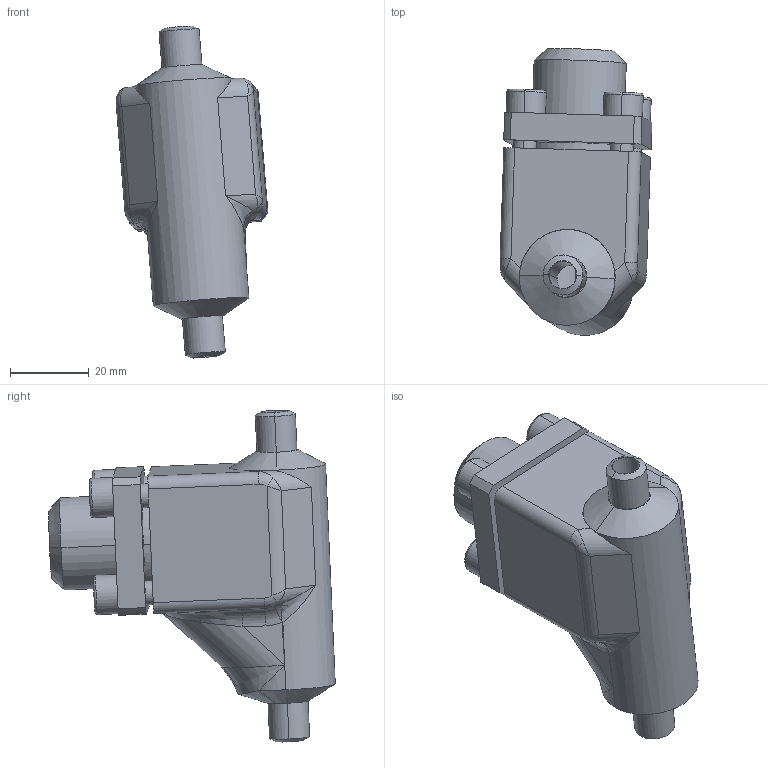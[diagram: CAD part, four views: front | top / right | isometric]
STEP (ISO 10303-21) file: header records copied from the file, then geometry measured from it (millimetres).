
FILE_DESCRIPTION (( 'STEP AP214' ), '1' );
FILE_NAME ('RV98300-DN006_R1_PS40.STEP', '2006-05-02T09:24:16', ( 'Herr Grams' ), ( 'AWP GmbH' ), 'SwSTEP 2.0', 'SolidWorks 2002296', '' );
FILE_SCHEMA (( 'AUTOMOTIVE_DESIGN' ));
Length unit declared in the file: millimetre
Products named in the file (5): RV98300-DN006_R1_PS40; RV98300E10_Deck+Schr-DN6-15_Standard; Deckel98300E10-DN6-15_PS40_Standard; Zylinderschraube-DIN912_M 6x 18; Gehäuse96300E06-DN06_PS40_R1_Standard
Assembly tree (7 placements, depth 3):
  RV98300-DN006_R1_PS40
    RV98300E10_Deck+Schr-DN6-15_Standard
      Zylinderschraube-DIN912_M 6x 18  x4
      Deckel98300E10-DN6-15_PS40_Standard
    Gehäuse96300E06-DN06_PS40_R1_Standard
Bounding box: 38.59 x 72.76 x 84.3 mm (x, y, z)
Volume: 65695.4 mm3; surface area: 23378.2 mm2
Topology: 6 solids, 6 shells, 192 faces, 443 edges, 272 vertices
Faces by surface type: plane 71, cylinder 69, cone 21, bspline 21, torus 10
Entity records: 13597 total; most frequent: CARTESIAN_POINT 9999, ORIENTED_EDGE 646, DIRECTION 624, EDGE_CURVE 323, AXIS2_PLACEMENT_3D 251, VERTEX_POINT 200, EDGE_LOOP 159, FACE_OUTER_BOUND 138
